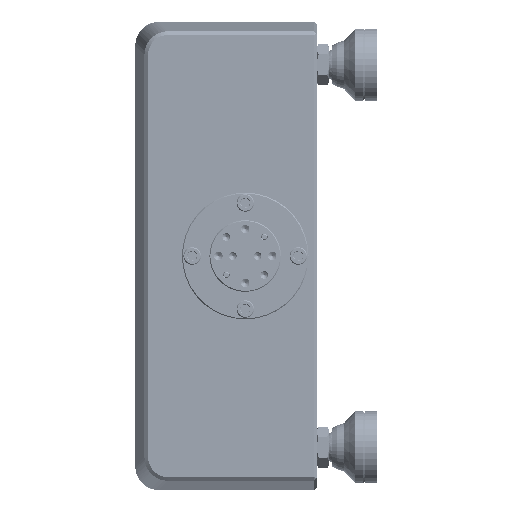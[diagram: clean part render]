
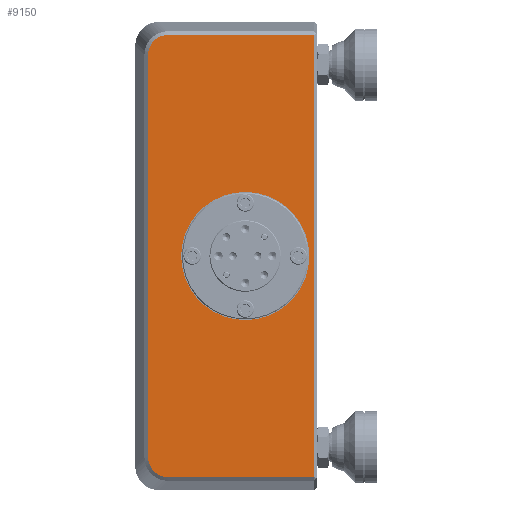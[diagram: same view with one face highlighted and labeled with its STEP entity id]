
A CAD part, left-side view. The second image highlights one B-rep face of the part: STEP entity #9150.
In plain terms, the highlighted planar face has unit normal (-1, 0, 0).
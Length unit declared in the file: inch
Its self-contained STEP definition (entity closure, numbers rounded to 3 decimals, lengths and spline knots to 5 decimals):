
#598 = CARTESIAN_POINT ( 'NONE',  ( -2.75, -0.66628, 2.13095 ) ) ;
#1437 = VERTEX_POINT ( 'NONE', #192958 ) ;
#1694 = CARTESIAN_POINT ( 'NONE',  ( -2.75, -0.8752, 2.31232 ) ) ;
#8238 = CARTESIAN_POINT ( 'NONE',  ( -2.75, -1.68136, 0.67 ) ) ;
#8624 = VECTOR ( 'NONE', #187252, 39.37008 ) ;
#8632 = CIRCLE ( 'NONE', #184810, 0.67 ) ;
#9150 = ADVANCED_FACE ( 'NONE', ( #131780, #115948 ), #149743, .F. ) ;
#13059 = CARTESIAN_POINT ( 'NONE',  ( -2.75, -0.8752, -2.31232 ) ) ;
#19508 = CARTESIAN_POINT ( 'NONE',  ( -2.75, -1.48136, 2.31232 ) ) ;
#23752 = EDGE_CURVE ( 'NONE', #95641, #71527, #95503, .T. ) ;
#25791 = EDGE_CURVE ( 'NONE', #146286, #1437, #82183, .T. ) ;
#32200 = CARTESIAN_POINT ( 'NONE',  ( -2.75, -0.76974, 2.28609 ) ) ;
#39692 = ORIENTED_EDGE ( 'NONE', *, *, #131571, .T. ) ;
#40540 = VERTEX_POINT ( 'NONE', #49249 ) ;
#45358 = EDGE_LOOP ( 'NONE', ( #194271, #212542 ) ) ;
#46445 = ORIENTED_EDGE ( 'NONE', *, *, #103900, .T. ) ;
#48374 = CARTESIAN_POINT ( 'NONE',  ( -2.75, -2.40136, 0. ) ) ;
#49249 = CARTESIAN_POINT ( 'NONE',  ( -2.75, -1.68136, -0.67 ) ) ;
#52781 = CARTESIAN_POINT ( 'NONE',  ( -2.75, -1.48136, 0. ) ) ;
#56991 = DIRECTION ( 'NONE',  ( 0., 0., -1. ) ) ;
#65989 = EDGE_LOOP ( 'NONE', ( #39692, #131233, #200030, #202211, #46445, #153260 ) ) ;
#67445 = DIRECTION ( 'NONE',  ( 1., 0., 0. ) ) ;
#69464 = CARTESIAN_POINT ( 'NONE',  ( -2.75, -0.84766, -2.31233 ) ) ;
#70614 = CARTESIAN_POINT ( 'NONE',  ( -2.75, -0.66628, -2.1034 ) ) ;
#71287 = VECTOR ( 'NONE', #82179, 39.37008 ) ;
#71527 = VERTEX_POINT ( 'NONE', #170946 ) ;
#79949 = DIRECTION ( 'NONE',  ( 0., 0., -1. ) ) ;
#81364 = CARTESIAN_POINT ( 'NONE',  ( -2.75, -0.66628, 2.1034 ) ) ;
#82179 = DIRECTION ( 'NONE',  ( 0., 0., 1. ) ) ;
#82183 = LINE ( 'NONE', #151977, #116626 ) ;
#85118 = CARTESIAN_POINT ( 'NONE',  ( -2.75, -0.66628, 2.1034 ) ) ;
#86422 = CARTESIAN_POINT ( 'NONE',  ( -2.75, -0.76974, -2.28609 ) ) ;
#95503 = LINE ( 'NONE', #145134, #102017 ) ;
#95641 = VERTEX_POINT ( 'NONE', #13059 ) ;
#98844 = B_SPLINE_CURVE_WITH_KNOTS ( 'NONE', 3,
 ( #1694, #203354, #169553, #32200, #105316, #151572, #205594, #135823, #598, #85118 ),
 .UNSPECIFIED., .F., .F.,
 ( 4, 2, 2, 2, 4 ),
 ( 0., 0.25, 0.5, 0.75, 1. ),
 .UNSPECIFIED. ) ;
#100992 = VERTEX_POINT ( 'NONE', #8238 ) ;
#102017 = VECTOR ( 'NONE', #130457, 39.37008 ) ;
#102416 = LINE ( 'NONE', #48374, #71287 ) ;
#102560 = CARTESIAN_POINT ( 'NONE',  ( -2.75, -0.8752, 2.31232 ) ) ;
#102826 = LINE ( 'NONE', #19508, #8624 ) ;
#103312 = CARTESIAN_POINT ( 'NONE',  ( -2.75, -0.69251, -2.20886 ) ) ;
#103900 = EDGE_CURVE ( 'NONE', #107640, #146286, #98844, .T. ) ;
#104706 = B_SPLINE_CURVE_WITH_KNOTS ( 'NONE', 3,
 ( #70614, #174187, #117979, #103312, #186645, #171974, #86422, #208029, #69464, #138246 ),
 .UNSPECIFIED., .F., .F.,
 ( 4, 2, 2, 2, 4 ),
 ( 0., 0.25, 0.5, 0.75, 1. ),
 .UNSPECIFIED. ) ;
#105313 = EDGE_CURVE ( 'NONE', #40540, #100992, #8632, .T. ) ;
#105316 = CARTESIAN_POINT ( 'NONE',  ( -2.75, -0.74651, 2.2706 ) ) ;
#107640 = VERTEX_POINT ( 'NONE', #102560 ) ;
#110645 = DIRECTION ( 'NONE',  ( 0., 0., 1. ) ) ;
#115948 = FACE_BOUND ( 'NONE', #45358, .T. ) ;
#116626 = VECTOR ( 'NONE', #79949, 39.37008 ) ;
#117979 = CARTESIAN_POINT ( 'NONE',  ( -2.75, -0.67172, -2.15839 ) ) ;
#127580 = DIRECTION ( 'NONE',  ( -1., 0., 0. ) ) ;
#130457 = DIRECTION ( 'NONE',  ( 0., -1., 0. ) ) ;
#131233 = ORIENTED_EDGE ( 'NONE', *, *, #23752, .T. ) ;
#131571 = EDGE_CURVE ( 'NONE', #1437, #95641, #104706, .T. ) ;
#131780 = FACE_OUTER_BOUND ( 'NONE', #65989, .T. ) ;
#135823 = CARTESIAN_POINT ( 'NONE',  ( -2.75, -0.67171, 2.15839 ) ) ;
#138246 = CARTESIAN_POINT ( 'NONE',  ( -2.75, -0.8752, -2.31232 ) ) ;
#145134 = CARTESIAN_POINT ( 'NONE',  ( -2.75, -1.48136, -2.31232 ) ) ;
#146286 = VERTEX_POINT ( 'NONE', #81364 ) ;
#149743 = PLANE ( 'NONE',  #186694 ) ;
#150917 = DIRECTION ( 'NONE',  ( -1., 0., 0. ) ) ;
#151572 = CARTESIAN_POINT ( 'NONE',  ( -2.75, -0.708, 2.2321 ) ) ;
#151977 = CARTESIAN_POINT ( 'NONE',  ( -2.75, -0.66628, 0. ) ) ;
#153260 = ORIENTED_EDGE ( 'NONE', *, *, #25791, .T. ) ;
#154454 = VERTEX_POINT ( 'NONE', #166412 ) ;
#166412 = CARTESIAN_POINT ( 'NONE',  ( -2.75, -2.40136, 2.31232 ) ) ;
#169553 = CARTESIAN_POINT ( 'NONE',  ( -2.75, -0.82022, 2.30689 ) ) ;
#169995 = CARTESIAN_POINT ( 'NONE',  ( -2.75, -1.68136, 0. ) ) ;
#170946 = CARTESIAN_POINT ( 'NONE',  ( -2.75, -2.40136, -2.31232 ) ) ;
#171974 = CARTESIAN_POINT ( 'NONE',  ( -2.75, -0.7465, -2.27061 ) ) ;
#174187 = CARTESIAN_POINT ( 'NONE',  ( -2.75, -0.66628, -2.13089 ) ) ;
#184708 = DIRECTION ( 'NONE',  ( 0., 0., 1. ) ) ;
#184810 = AXIS2_PLACEMENT_3D ( 'NONE', #169995, #150917, #184708 ) ;
#186645 = CARTESIAN_POINT ( 'NONE',  ( -2.75, -0.70801, -2.2321 ) ) ;
#186694 = AXIS2_PLACEMENT_3D ( 'NONE', #52781, #67445, #56991 ) ;
#187252 = DIRECTION ( 'NONE',  ( 0., 1., 0. ) ) ;
#191785 = CARTESIAN_POINT ( 'NONE',  ( -2.75, -1.68136, 0. ) ) ;
#192958 = CARTESIAN_POINT ( 'NONE',  ( -2.75, -0.66628, -2.1034 ) ) ;
#194271 = ORIENTED_EDGE ( 'NONE', *, *, #195356, .F. ) ;
#195259 = CIRCLE ( 'NONE', #213255, 0.67 ) ;
#195356 = EDGE_CURVE ( 'NONE', #100992, #40540, #195259, .T. ) ;
#198426 = EDGE_CURVE ( 'NONE', #154454, #107640, #102826, .T. ) ;
#200030 = ORIENTED_EDGE ( 'NONE', *, *, #202071, .T. ) ;
#202071 = EDGE_CURVE ( 'NONE', #71527, #154454, #102416, .T. ) ;
#202211 = ORIENTED_EDGE ( 'NONE', *, *, #198426, .T. ) ;
#203354 = CARTESIAN_POINT ( 'NONE',  ( -2.75, -0.84772, 2.31233 ) ) ;
#205594 = CARTESIAN_POINT ( 'NONE',  ( -2.75, -0.69252, 2.20886 ) ) ;
#208029 = CARTESIAN_POINT ( 'NONE',  ( -2.75, -0.82021, -2.30689 ) ) ;
#212542 = ORIENTED_EDGE ( 'NONE', *, *, #105313, .F. ) ;
#213255 = AXIS2_PLACEMENT_3D ( 'NONE', #191785, #127580, #110645 ) ;
